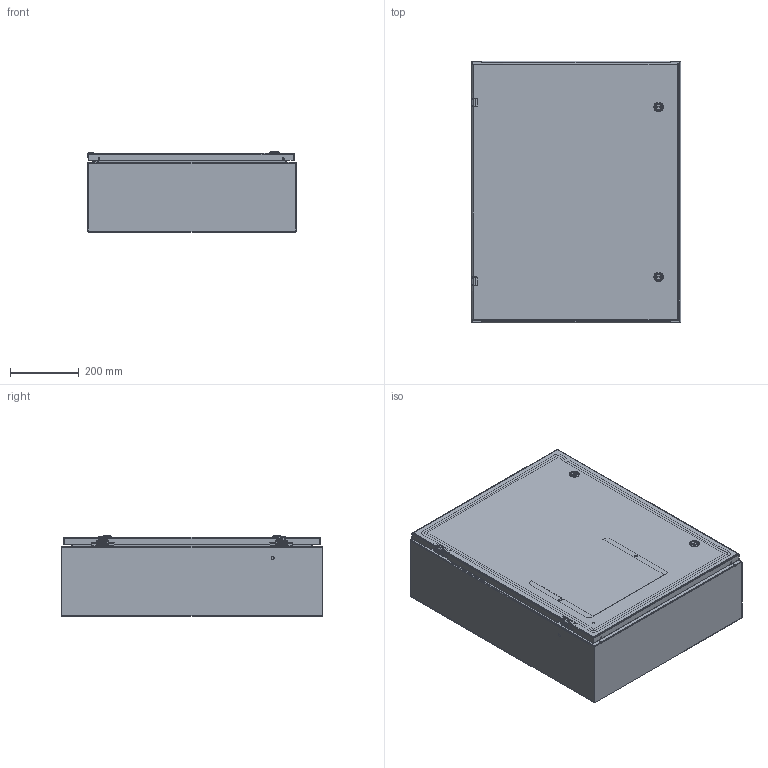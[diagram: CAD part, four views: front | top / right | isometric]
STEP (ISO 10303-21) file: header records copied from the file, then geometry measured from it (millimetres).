
FILE_DESCRIPTION((''),'2;1');
FILE_NAME('MODEL-305_ASM','2022-12-12T13:36:38',('johnh'),('SAGINAW CONTROL & ENGINEERING'),'CREO PARAMETRIC BY PTC INC, 2021284','CREO PARAMETRIC BY PTC INC, 2021284','');
FILE_SCHEMA(('AUTOMOTIVE_DESIGN { 1 0 10303 214 1 1 1 1 }'));
Length unit declared in the file: inch
Products named in the file (28): MODEL-305-BDY; MODEL-305-TP; MODEL-305-BTM; MODEL-305-DR; 100837; 100882; 111267; 100794_SHAFT; 100794_INSERT; 100794_CAM; 100794_NUT; 100794_SCREW; 100794_ASM; MODEL-305-DOOR-GASKET; 126391; 126391_ASM; 126393; 102483; 101226; 101376; 102140; MODEL-305-DOOR-ASSY_ASM; 101653; 122191; SUBPANEL; 100904; SUBPANEL-SUBASSEMBLY_ASM; MODEL-305_ASM
Assembly tree (48 placements, depth 4):
  MODEL-305_ASM
    MODEL-305-BDY
    MODEL-305-TP
    MODEL-305-BTM
    MODEL-305-DOOR-ASSY_ASM
      MODEL-305-DR
      100837  x3
      100882  x2
      111267
      100794_ASM  x2
        100794_SHAFT
        100794_INSERT
        100794_CAM
        100794_NUT
        100794_SCREW
      MODEL-305-DOOR-GASKET
      126391_ASM  x2
        126391
      126393  x2
      102483  x6
      101226  x2
      101376  x2
      102140  x2
    100837
    101653  x4
    122191
    SUBPANEL-SUBASSEMBLY_ASM
      SUBPANEL
      100904  x4
Bounding box: 609.6 x 762 x 234.33 mm (x, y, z)
Volume: 4894248.9 mm3; surface area: 4442641.8 mm2
Topology: 49 solids, 49 shells, 3061 faces, 7782 edges, 4888 vertices
Faces by surface type: plane 1358, cylinder 853, bspline 476, torus 214, cone 104, sphere 56
Entity records: 86122 total; most frequent: CARTESIAN_POINT 25313, ORIENTED_EDGE 8826, DIRECTION 8230, PRESENTATION_STYLE_ASSIGNMENT 4610, EDGE_CURVE 4413, STYLED_ITEM 4335, CURVE_STYLE 4251, AXIS2_PLACEMENT_3D 2984
